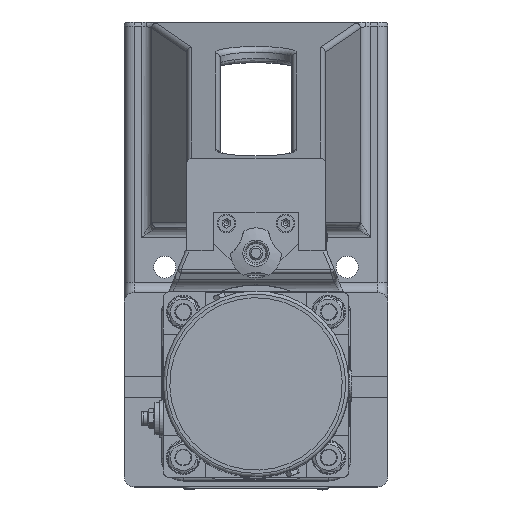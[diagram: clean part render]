
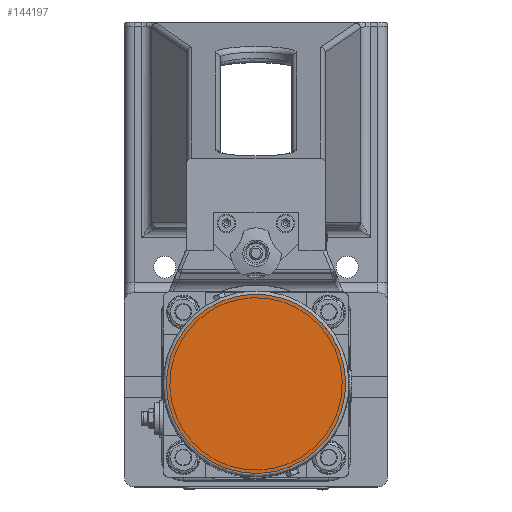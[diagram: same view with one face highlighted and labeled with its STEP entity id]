
A CAD part, top view. The second image highlights one B-rep face of the part: STEP entity #144197.
In plain terms, the highlighted planar face has unit normal (0, 0, 1).
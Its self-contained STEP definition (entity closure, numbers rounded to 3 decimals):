
#38404=PLANE('',#151459);
#45376=FACE_OUTER_BOUND('',#53093,.T.);
#53093=EDGE_LOOP('',(#111968));
#58361=CIRCLE('',#151458,53.);
#65372=VERTEX_POINT('',#213254);
#82133=EDGE_CURVE('',#65372,#65372,#58361,.T.);
#111968=ORIENTED_EDGE('',*,*,#82133,.F.);
#144197=ADVANCED_FACE('',(#45376),#38404,.F.);
#151458=AXIS2_PLACEMENT_3D('',#213255,#168612,#168613);
#151459=AXIS2_PLACEMENT_3D('',#213256,#168614,#168615);
#168612=DIRECTION('center_axis',(0.,0.,
-1.));
#168613=DIRECTION('ref_axis',(-0.924,-0.383,0.));
#168614=DIRECTION('center_axis',(0.,0.,
-1.));
#168615=DIRECTION('ref_axis',(-0.924,-0.383,0.));
#213254=CARTESIAN_POINT('',(48.966,6.282,832.));
#213255=CARTESIAN_POINT('Origin',(0.,-14.,
832.));
#213256=CARTESIAN_POINT('Origin',(0.,-14.,
832.));
